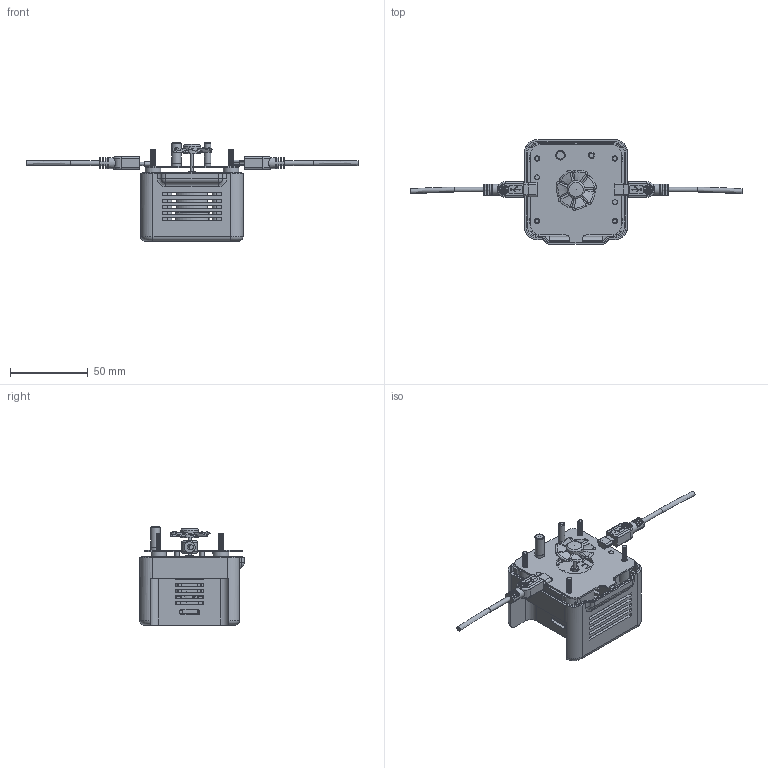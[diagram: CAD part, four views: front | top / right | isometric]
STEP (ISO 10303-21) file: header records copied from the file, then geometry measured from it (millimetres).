
FILE_DESCRIPTION(/* description */ (''),/* implementation_level */ '2;1');
FILE_NAME(/* name */ '2.stp',/* time_stamp */ '2017-05-18T00:50:00+08:00',/* author */ (''),/* organization */ (''),/* preprocessor_version */ 'ST-DEVELOPER v15',/* originating_system */ 'SIEMENS PLM Software NX 8.5',/* authorisation */ '');
FILE_SCHEMA (('AUTOMOTIVE_DESIGN { 1 0 10303 214 3 1 1 1 }'));
Products named in the file (1): Admi1DBCDAC23vnm
Bounding box: 213 x 67 x 63.01 mm (x, y, z)
Volume: 52669.2 mm3; surface area: 68656.3 mm2
Topology: 21 solids, 21 shells, 1222 faces, 3275 edges, 2155 vertices
Faces by surface type: plane 738, cylinder 334, bspline 92, torus 35, sphere 15, cone 4, extrusion 4
Full cylindrical faces by diameter (mm): 1.764 x4, 1.96 x1, 2 x2, 2.156 x1, 3 x6, 3.4 x8, 3.92 x4, 4 x4, 4.9 x1, 5.88 x1, 6 x2, 6.6 x4, 7 x6, 8.33 x1, 8.96 x1, 10.059 x4, 11.2 x1, 23.764 x1
Entity records: 76167 total; most frequent: CARTESIAN_POINT 45196, ORIENTED_EDGE 6294, DIRECTION 6023, EDGE_CURVE 3147, VERTEX_POINT 2102, AXIS2_PLACEMENT_3D 2047, VECTOR 1929, LINE 1925
